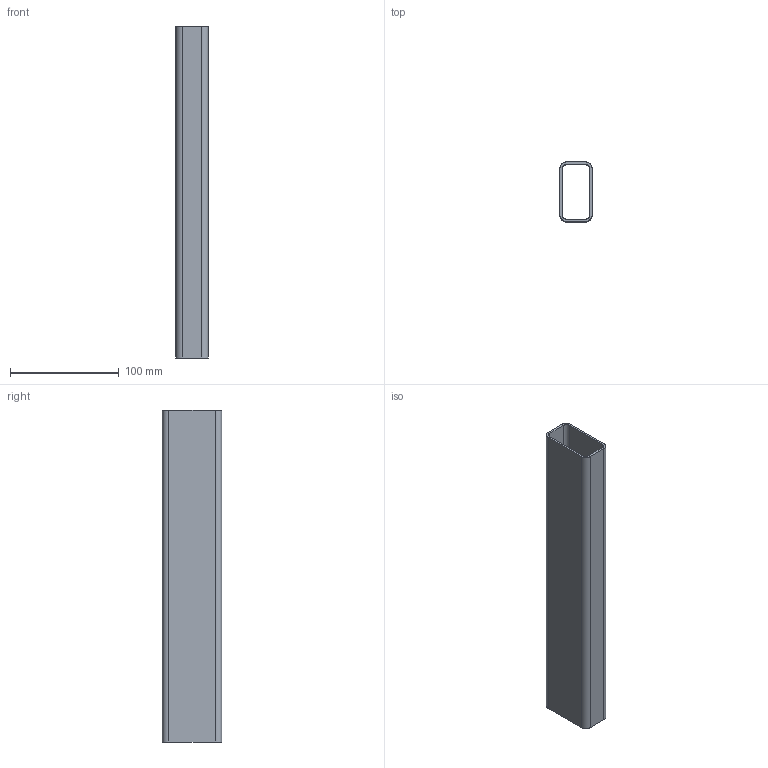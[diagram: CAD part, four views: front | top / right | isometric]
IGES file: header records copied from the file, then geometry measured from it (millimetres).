
Start section: SolidWorks IGES file using analytic representation for surfaces
Global section: file name: O:\Database\Dumb Solids - Coupling & Gussets\DRP-002-0001-14.IGS; native system: SolidWorks 2011; preprocessor: SolidWorks 2011; author: mbush2; date: 111207.162244; units: inch
Bounding box: 29.46 x 54.61 x 304.8 mm (x, y, z)
Surface area: 93024.8 mm2 (no closed solid volume)
Topology: 0 solids, 0 shells, 18 faces, 208 edges, 208 vertices
Faces by surface type: bspline 10, revolution 8
